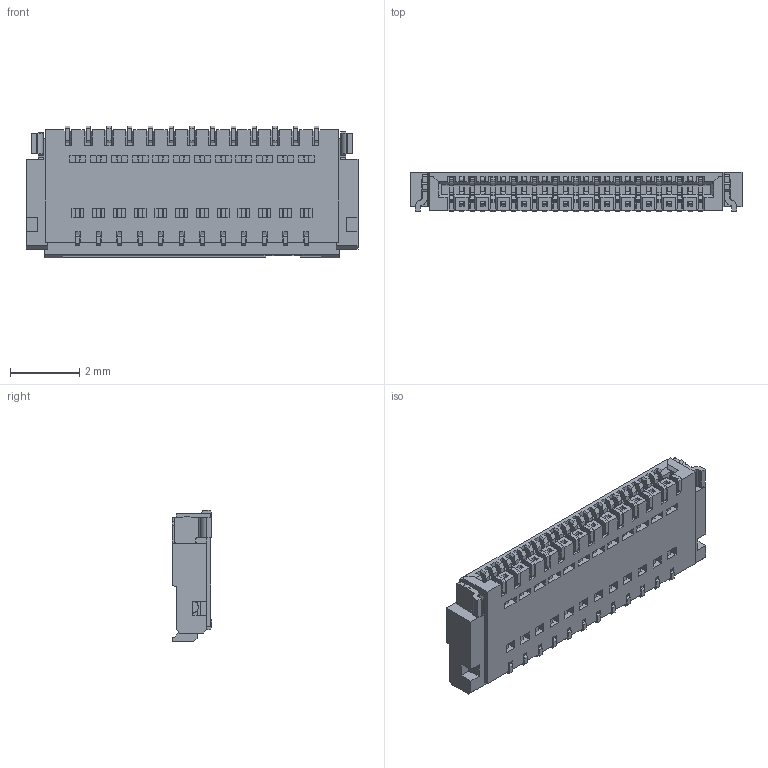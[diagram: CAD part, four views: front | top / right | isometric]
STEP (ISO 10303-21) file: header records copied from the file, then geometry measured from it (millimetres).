
FILE_DESCRIPTION((''),'2;1');
FILE_NAME('5025982593','2014-04-25T',('me'),(''),'PRO/ENGINEER BY PARAMETRIC TECHNOLOGY CORPORATION, 2011490','PRO/ENGINEER BY PARAMETRIC TECHNOLOGY CORPORATION, 2011490','');
FILE_SCHEMA(('CONFIG_CONTROL_DESIGN'));
Products named in the file (1): 5025982593
Bounding box: 9.6 x 1.15 x 3.8 mm (x, y, z)
Volume: 24.5 mm3; surface area: 288.4 mm2
Topology: 1 solids, 1 shells, 2893 faces, 9451 edges, 6201 vertices
Faces by surface type: plane 2461, cylinder 432
Entity records: 102551 total; most frequent: ORIENTED_EDGE 18682, CARTESIAN_POINT 18434, DIRECTION 16143, EDGE_CURVE 9341, VECTOR 8547, LINE 8547, VERTEX_POINT 6089, AXIS2_PLACEMENT_3D 3798
